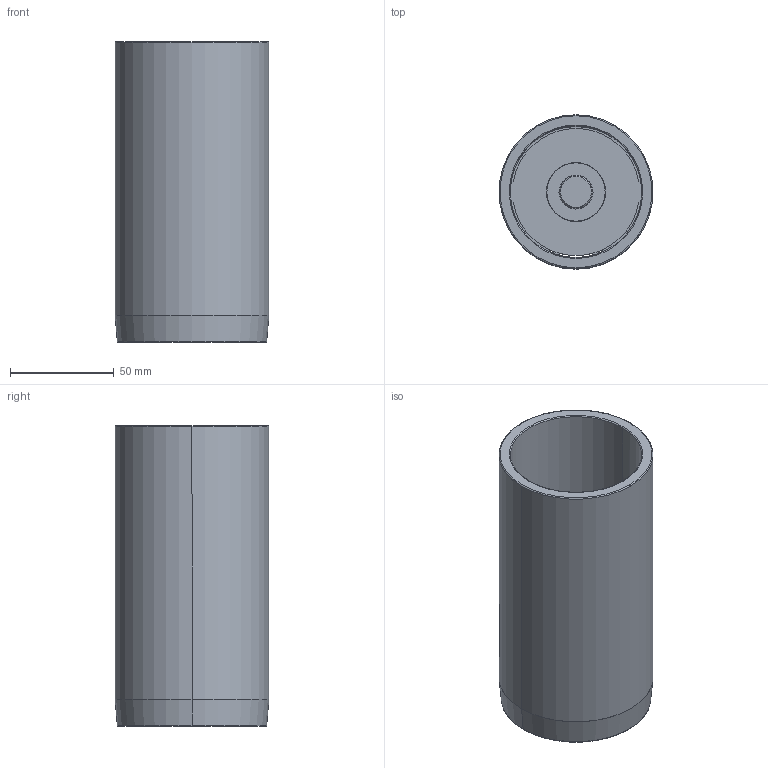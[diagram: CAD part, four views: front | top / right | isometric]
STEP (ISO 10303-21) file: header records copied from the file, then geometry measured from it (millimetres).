
FILE_DESCRIPTION((''),'2;1');
FILE_NAME('C12_063_145.stp','2009-01-28T14:19:28',(''),(''),'Mechanical Desktop 2009','Mechanical Desktop 2009',', , ');
FILE_SCHEMA(('CONFIG_CONTROL_DESIGN'));
Length unit declared in the file: millimetre
Products named in the file (2): Product; blmdl1
Assembly tree (1 placements, depth 2):
  Product
    blmdl1
Bounding box: 74.25 x 74.25 x 145 mm (x, y, z)
Volume: 185323.3 mm3; surface area: 79060.1 mm2
Topology: 5 solids, 5 shells, 79 faces, 200 edges, 134 vertices
Faces by surface type: cylinder 34, plane 29, torus 10, cone 6
Entity records: 2585 total; most frequent: DIRECTION 480, CARTESIAN_POINT 435, ORIENTED_EDGE 400, AXIS2_PLACEMENT_3D 203, EDGE_CURVE 200, VERTEX_POINT 134, CIRCLE 122, EDGE_LOOP 92
